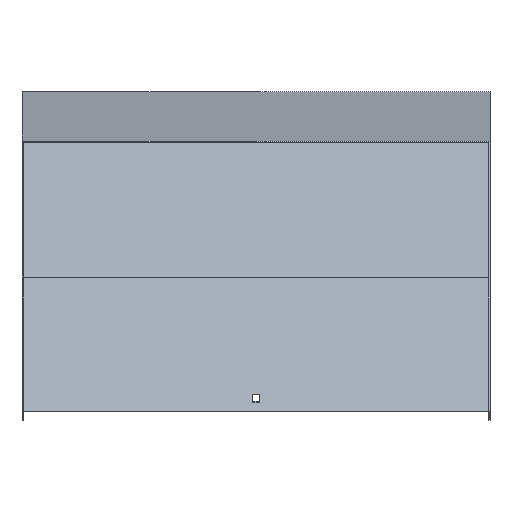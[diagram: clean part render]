
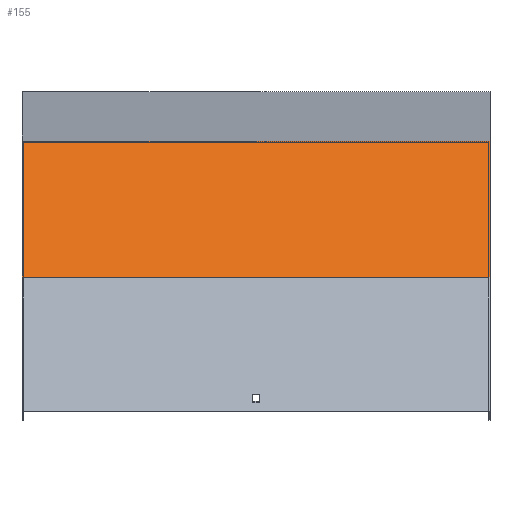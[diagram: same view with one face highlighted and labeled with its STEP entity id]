
A CAD part, top view. The second image highlights one B-rep face of the part: STEP entity #155.
In plain terms, the highlighted planar face has unit normal (0, 0.707, 0.707).
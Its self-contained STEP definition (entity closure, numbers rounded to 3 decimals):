
#12 = VERTEX_POINT ( 'NONE', #521 ) ;
#15 = PLANE ( 'NONE',  #649 ) ;
#17 = VECTOR ( 'NONE', #87, 1000. ) ;
#38 = EDGE_CURVE ( 'NONE', #900, #284, #292, .T. ) ;
#69 = CARTESIAN_POINT ( 'NONE',  ( 251.5, -179.939, 512.937 ) ) ;
#74 = DIRECTION ( 'NONE',  ( 0., -0.707, 0.707 ) ) ;
#87 = DIRECTION ( 'NONE',  ( -1., 0., 0. ) ) ;
#91 = ORIENTED_EDGE ( 'NONE', *, *, #38, .F. ) ;
#147 = DIRECTION ( 'NONE',  ( 0., -0.707, 0.707 ) ) ;
#155 = ADVANCED_FACE ( 'NONE', ( #706 ), #15, .F. ) ;
#201 = CARTESIAN_POINT ( 'NONE',  ( 251.5, -179.939, 512.937 ) ) ;
#209 = LINE ( 'NONE', #69, #556 ) ;
#237 = VECTOR ( 'NONE', #74, 1000. ) ;
#284 = VERTEX_POINT ( 'NONE', #201 ) ;
#292 = LINE ( 'NONE', #690, #523 ) ;
#368 = EDGE_CURVE ( 'NONE', #615, #12, #529, .T. ) ;
#391 = ORIENTED_EDGE ( 'NONE', *, *, #414, .F. ) ;
#410 = DIRECTION ( 'NONE',  ( 0., -0.707, -0.707 ) ) ;
#414 = EDGE_CURVE ( 'NONE', #284, #12, #209, .T. ) ;
#429 = CARTESIAN_POINT ( 'NONE',  ( -251.5, -33.573, 366.572 ) ) ;
#444 = DIRECTION ( 'NONE',  ( -1., 0., 0. ) ) ;
#521 = CARTESIAN_POINT ( 'NONE',  ( -251.5, -179.939, 512.937 ) ) ;
#523 = VECTOR ( 'NONE', #147, 1000. ) ;
#529 = LINE ( 'NONE', #742, #237 ) ;
#547 = EDGE_LOOP ( 'NONE', ( #890, #391, #91, #947 ) ) ;
#556 = VECTOR ( 'NONE', #444, 1000. ) ;
#615 = VERTEX_POINT ( 'NONE', #429 ) ;
#631 = DIRECTION ( 'NONE',  ( 0., 0.707, -0.707 ) ) ;
#633 = CARTESIAN_POINT ( 'NONE',  ( 251.5, -33.573, 366.572 ) ) ;
#637 = CARTESIAN_POINT ( 'NONE',  ( 251.5, -37.363, 370.361 ) ) ;
#649 = AXIS2_PLACEMENT_3D ( 'NONE', #637, #410, #631 ) ;
#690 = CARTESIAN_POINT ( 'NONE',  ( 251.5, -37.363, 370.361 ) ) ;
#706 = FACE_OUTER_BOUND ( 'NONE', #547, .T. ) ;
#742 = CARTESIAN_POINT ( 'NONE',  ( -251.5, -37.363, 370.361 ) ) ;
#771 = CARTESIAN_POINT ( 'NONE',  ( 251.5, -33.573, 366.572 ) ) ;
#890 = ORIENTED_EDGE ( 'NONE', *, *, #368, .T. ) ;
#900 = VERTEX_POINT ( 'NONE', #633 ) ;
#906 = EDGE_CURVE ( 'NONE', #900, #615, #932, .T. ) ;
#932 = LINE ( 'NONE', #771, #17 ) ;
#947 = ORIENTED_EDGE ( 'NONE', *, *, #906, .T. ) ;
